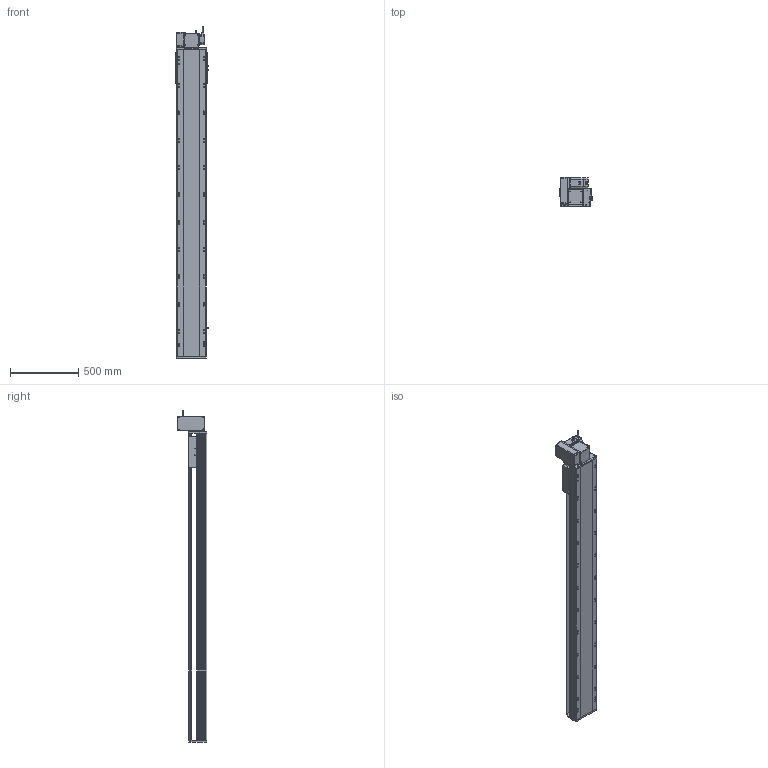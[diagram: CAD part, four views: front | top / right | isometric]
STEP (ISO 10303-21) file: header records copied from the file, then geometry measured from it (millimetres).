
FILE_DESCRIPTION (( 'STEP AP214' ), '1' );
FILE_NAME ('RTB22S-XX-1900-LW-M75-C4.STEP', '2025-12-12T05:59:59', ( '' ), ( '' ), 'SwSTEP 2.0', 'SolidWorks 2018', '' );
FILE_SCHEMA (( 'AUTOMOTIVE_DESIGN' ));
Length unit declared in the file: millimetre
Products named in the file (14): OMRON EE-SX672 传感器^RTB22S-XX-XX-LW-M75-C4; RTB22S-XX-1900-LW-M75-C4; RTB22S-LW-々湍釱蚾饜^RTB22S-XX-XX-LW-M75-C4; RTB22S-GY-005P^RTB22S-LW-々湍釱蚾饜_RTB22S-XX-XX-LW-M75-C4; RTB22S-L-004賑釱^RTB22S-XX-XX-LW-M75-C4; RTB22S-GY-017P^RTB22S-LW-々湍釱蚾饜_RTB22S-XX-XX-LW-M75-C4; RTB22S-GY-018P^RTB22S-LW-々湍釱蚾饜_RTB22S-XX-XX-LW-M75-C4; RTB22S-GY-014--々湍釱^RTB22S-LW-々湍釱蚾饜_RTB22S-XX-XX-LW-M75-C4; RTH22-GY-013外置感应片^RTB22S-XX-XX-LW-M75-C4; RTB22S-GY-008-M75--萇儂啣^RTB22S-LW-々湍釱蚾饜_RTB22S-XX-XX-LW-M75-C4; 750W萇儂^RTB22S-XX-XX-LW-M75-C4; RTB22S-L-011菁釱^RTB22S-XX-XX-LW-M75-C4; RTB22S-GY-007奻裔^RTB22S-XX-XX-LW-M75-C4; RTB22S-GY-001耜裔^RTB22S-XX-XX-LW-M75-C4
Assembly tree (16 placements, depth 3):
  RTB22S-XX-1900-LW-M75-C4
    RTB22S-L-011菁釱^RTB22S-XX-XX-LW-M75-C4
    RTB22S-GY-001耜裔^RTB22S-XX-XX-LW-M75-C4
    750W萇儂^RTB22S-XX-XX-LW-M75-C4
    RTB22S-GY-007奻裔^RTB22S-XX-XX-LW-M75-C4
    RTB22S-L-004賑釱^RTB22S-XX-XX-LW-M75-C4
    RTH22-GY-013外置感应片^RTB22S-XX-XX-LW-M75-C4
    OMRON EE-SX672 传感器^RTB22S-XX-XX-LW-M75-C4  x3
    RTB22S-LW-々湍釱蚾饜^RTB22S-XX-XX-LW-M75-C4
      RTB22S-GY-014--々湍釱^RTB22S-LW-々湍釱蚾饜_RTB22S-XX-XX-LW-M75-C4
      RTB22S-GY-017P^RTB22S-LW-々湍釱蚾饜_RTB22S-XX-XX-LW-M75-C4  x2
      RTB22S-GY-005P^RTB22S-LW-々湍釱蚾饜_RTB22S-XX-XX-LW-M75-C4
      RTB22S-GY-008-M75--萇儂啣^RTB22S-LW-々湍釱蚾饜_RTB22S-XX-XX-LW-M75-C4
      RTB22S-GY-018P^RTB22S-LW-々湍釱蚾饜_RTB22S-XX-XX-LW-M75-C4
Bounding box: 238.5 x 215.5 x 2432.2 mm (x, y, z)
Volume: 31772775.5 mm3; surface area: 3265253 mm2
Topology: 15 solids, 15 shells, 2055 faces, 5586 edges, 3572 vertices
Faces by surface type: plane 923, cylinder 670, bspline 296, cone 154, sphere 8, torus 4
Entity records: 55400 total; most frequent: CARTESIAN_POINT 15764, ORIENTED_EDGE 7928, DIRECTION 7698, EDGE_CURVE 3964, AXIS2_PLACEMENT_3D 2742, VERTEX_POINT 2576, VECTOR 2214, LINE 2214
